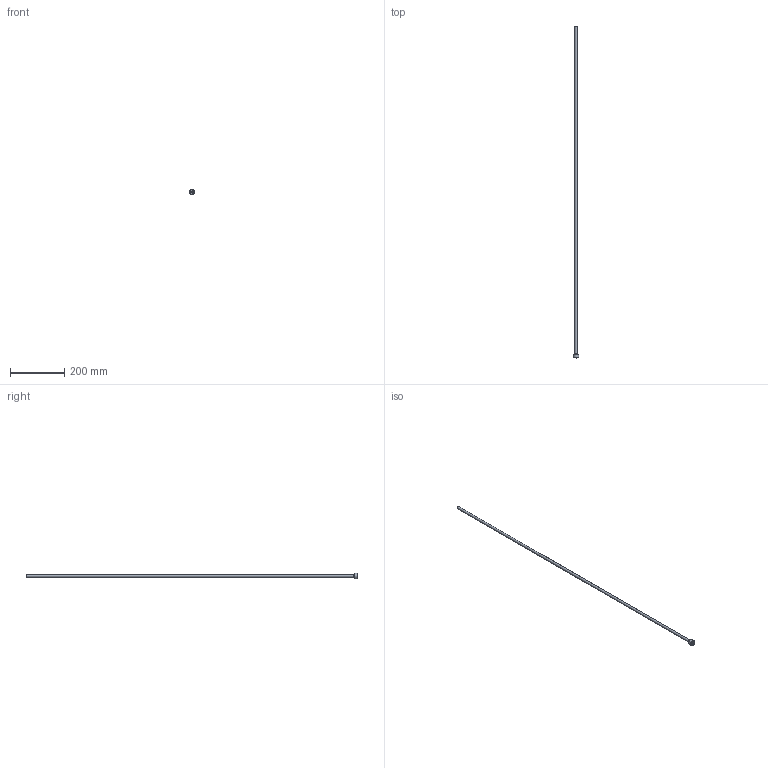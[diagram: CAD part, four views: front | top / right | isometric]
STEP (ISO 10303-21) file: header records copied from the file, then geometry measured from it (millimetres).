
FILE_DESCRIPTION(/* description */ (''),/* implementation_level */ '2;1');
FILE_NAME(/* name */ 'C:/Users/drich/Desktop/PT12-375-48 v1.step',/* time_stamp */ '2019-12-27T14:49:49-06:00',/* author */ (''),/* organization */ (''),/* preprocessor_version */ 'ST-DEVELOPER v18',/* originating_system */ 'Autodesk Translation Framework v8.12.0.6',/* authorisation */ '');
FILE_SCHEMA (('AUTOMOTIVE_DESIGN { 1 0 10303 214 3 1 1 }'));
Length unit declared in the file: inch
Products named in the file (1): PT12-375-48
Bounding box: 20.81 x 1219.2 x 20.81 mm (x, y, z)
Volume: 14452.8 mm3; surface area: 69611.8 mm2
Topology: 1 solids, 1 shells, 19 faces, 48 edges, 34 vertices
Faces by surface type: plane 11, cylinder 4, torus 2, cone 2
Full cylindrical faces by diameter (mm): 8.636 x1, 9.271 x1, 13.868 x1, 20.813 x1
Entity records: 633 total; most frequent: DIRECTION 112, CARTESIAN_POINT 102, ORIENTED_EDGE 96, EDGE_CURVE 48, AXIS2_PLACEMENT_3D 44, VERTEX_POINT 34, CIRCLE 24, EDGE_LOOP 24
